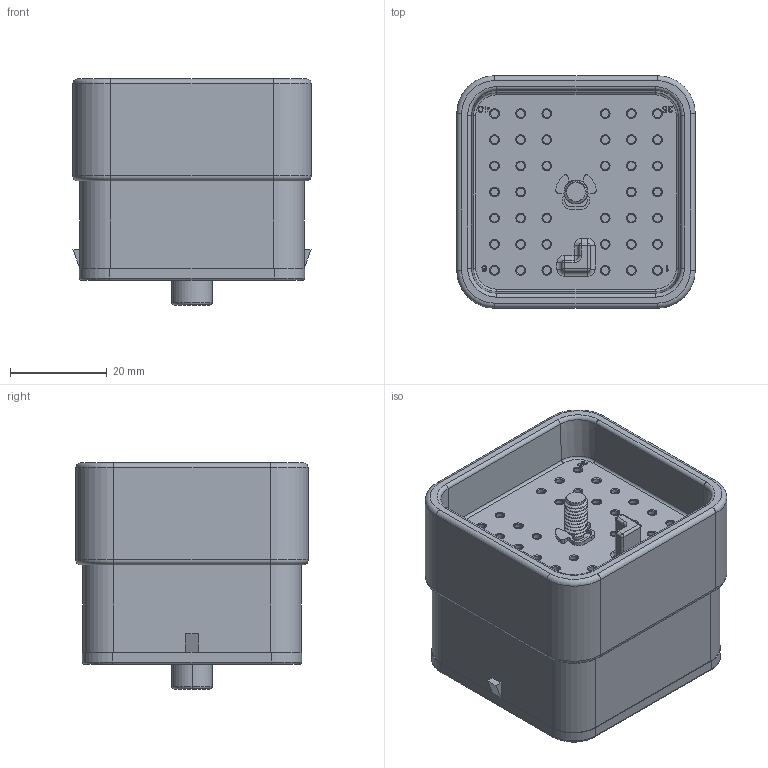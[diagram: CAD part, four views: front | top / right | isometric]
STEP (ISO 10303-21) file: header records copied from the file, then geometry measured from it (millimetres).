
FILE_DESCRIPTION((''),'2;1');
FILE_NAME('C-AEC14-40PD','2013-05-24T',('workeradm'),('Tyco Electronics Ltd.'),'PRO/ENGINEER BY PARAMETRIC TECHNOLOGY CORPORATION, 2011490','PRO/ENGINEER BY PARAMETRIC TECHNOLOGY CORPORATION, 2011490','');
FILE_SCHEMA(('AUTOMOTIVE_DESIGN { 1 0 10303 214 1 1 1 1 }'));
Length unit declared in the file: millimetre
Products named in the file (1): C-AEC14-40PD
Bounding box: 49.38 x 48.11 x 46.79 mm (x, y, z)
Volume: 72597.9 mm3; surface area: 14969.3 mm2
Topology: 1 solids, 1 shells, 961 faces, 2221 edges, 1400 vertices
Faces by surface type: plane 412, cylinder 340, bspline 89, cone 86, torus 28, sphere 6
Entity records: 31601 total; most frequent: CARTESIAN_POINT 9056, DIRECTION 4842, ORIENTED_EDGE 4442, EDGE_CURVE 2221, AXIS2_PLACEMENT_3D 1801, VERTEX_POINT 1400, VECTOR 1240, LINE 1240
